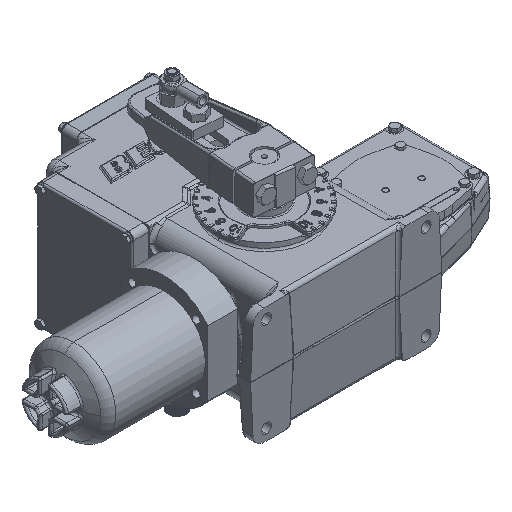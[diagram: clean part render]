
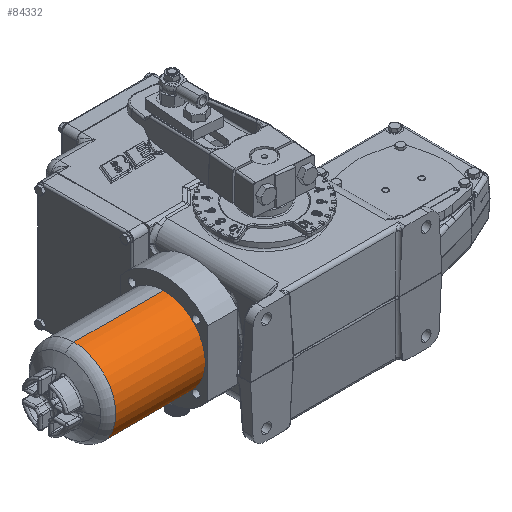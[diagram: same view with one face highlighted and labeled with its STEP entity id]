
A CAD part, isometric view. The second image highlights one B-rep face of the part: STEP entity #84332.
In plain terms, the highlighted cylindrical face has radius 72.707 mm (diameter 145.415 mm), a partial arc.
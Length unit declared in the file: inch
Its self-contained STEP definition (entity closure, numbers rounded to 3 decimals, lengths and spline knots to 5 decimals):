
#7351 = VECTOR ( 'NONE', #89102, 39.37008 ) ;
#7587 = EDGE_CURVE ( 'NONE', #26885, #95572, #51736, .T. ) ;
#8135 = VECTOR ( 'NONE', #105450, 39.37008 ) ;
#11403 = ORIENTED_EDGE ( 'NONE', *, *, #30602, .F. ) ;
#13503 = ORIENTED_EDGE ( 'NONE', *, *, #7587, .T. ) ;
#15919 = CARTESIAN_POINT ( 'NONE',  ( -6.939, 0., 0.112 ) ) ;
#16688 = VERTEX_POINT ( 'NONE', #39812 ) ;
#25719 = DIRECTION ( 'NONE',  ( -1., 0., 0. ) ) ;
#26885 = VERTEX_POINT ( 'NONE', #107332 ) ;
#27130 = CARTESIAN_POINT ( 'NONE',  ( -15.21157, -0.02524, -2.75039 ) ) ;
#28526 = VERTEX_POINT ( 'NONE', #91297 ) ;
#28971 = LINE ( 'NONE', #88037, #8135 ) ;
#29965 = ORIENTED_EDGE ( 'NONE', *, *, #98951, .F. ) ;
#30602 = EDGE_CURVE ( 'NONE', #28526, #16688, #28971, .T. ) ;
#32327 = DIRECTION ( 'NONE',  ( 0., -0.009, -1. ) ) ;
#39122 = FACE_OUTER_BOUND ( 'NONE', #61135, .T. ) ;
#39812 = CARTESIAN_POINT ( 'NONE',  ( -6.939, 0.02524, 2.97439 ) ) ;
#39936 = AXIS2_PLACEMENT_3D ( 'NONE', #78798, #25719, #87742 ) ;
#51329 = EDGE_CURVE ( 'NONE', #16688, #95572, #83666, .T. ) ;
#51622 = DIRECTION ( 'NONE',  ( 1., 0., 0. ) ) ;
#51736 = LINE ( 'NONE', #27130, #7351 ) ;
#54597 = ORIENTED_EDGE ( 'NONE', *, *, #51329, .F. ) ;
#61135 = EDGE_LOOP ( 'NONE', ( #11403, #29965, #13503, #54597 ) ) ;
#78798 = CARTESIAN_POINT ( 'NONE',  ( -13.10597, 0., 0.112 ) ) ;
#81750 = CIRCLE ( 'NONE', #39936, 2.8625 ) ;
#83666 = CIRCLE ( 'NONE', #111956, 2.8625 ) ;
#84332 = ADVANCED_FACE ( 'NONE', ( #39122 ), #107031, .T. ) ;
#87742 = DIRECTION ( 'NONE',  ( 0., -0.009, -1. ) ) ;
#88037 = CARTESIAN_POINT ( 'NONE',  ( -15.21157, 0.02524, 2.97439 ) ) ;
#89102 = DIRECTION ( 'NONE',  ( 1., 0., 0. ) ) ;
#91297 = CARTESIAN_POINT ( 'NONE',  ( -13.10597, 0.02524, 2.97439 ) ) ;
#94680 = AXIS2_PLACEMENT_3D ( 'NONE', #103209, #112084, #32327 ) ;
#95572 = VERTEX_POINT ( 'NONE', #105143 ) ;
#98951 = EDGE_CURVE ( 'NONE', #26885, #28526, #81750, .T. ) ;
#103209 = CARTESIAN_POINT ( 'NONE',  ( -15.21157, 0., 0.112 ) ) ;
#105143 = CARTESIAN_POINT ( 'NONE',  ( -6.939, -0.02524, -2.75039 ) ) ;
#105450 = DIRECTION ( 'NONE',  ( 1., 0., 0. ) ) ;
#107031 = CYLINDRICAL_SURFACE ( 'NONE', #94680, 2.8625 ) ;
#107332 = CARTESIAN_POINT ( 'NONE',  ( -13.10597, -0.02524, -2.75039 ) ) ;
#111956 = AXIS2_PLACEMENT_3D ( 'NONE', #15919, #51622, #113537 ) ;
#112084 = DIRECTION ( 'NONE',  ( 1., 0., 0. ) ) ;
#113537 = DIRECTION ( 'NONE',  ( 0., -0.009, -1. ) ) ;
